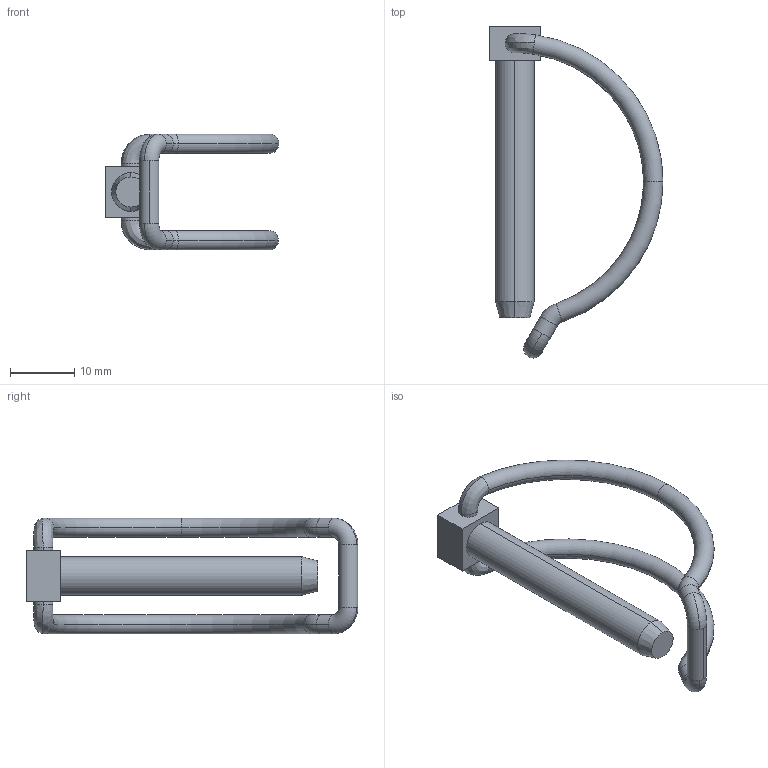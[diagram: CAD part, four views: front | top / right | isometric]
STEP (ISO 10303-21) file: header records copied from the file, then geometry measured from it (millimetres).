
FILE_DESCRIPTION (( 'STEP AP203' ), '1' );
FILE_NAME ('33320.W0062.step', '2025-02-04T13:40:18', ( '' ), ( '' ), 'SwSTEP 2.0', 'SolidWorks 2019', '' );
FILE_SCHEMA (( 'CONFIG_CONTROL_DESIGN' ));
Length unit declared in the file: millimetre
Products named in the file (3): part1_33320.W0062; Part5_33320.W0062; 33320.W0062
Assembly tree (2 placements, depth 2):
  33320.W0062
    part1_33320.W0062
    Part5_33320.W0062
Bounding box: 27 x 51.55 x 18 mm (x, y, z)
Volume: 2511.9 mm3; surface area: 2593.9 mm2
Topology: 2 solids, 2 shells, 43 faces, 98 edges, 60 vertices
Faces by surface type: cylinder 14, torus 14, plane 9, bspline 4, cone 2
Entity records: 1827 total; most frequent: CARTESIAN_POINT 518, DIRECTION 248, ORIENTED_EDGE 196, AXIS2_PLACEMENT_3D 110, EDGE_CURVE 98, CIRCLE 66, VERTEX_POINT 60, EDGE_LOOP 46
